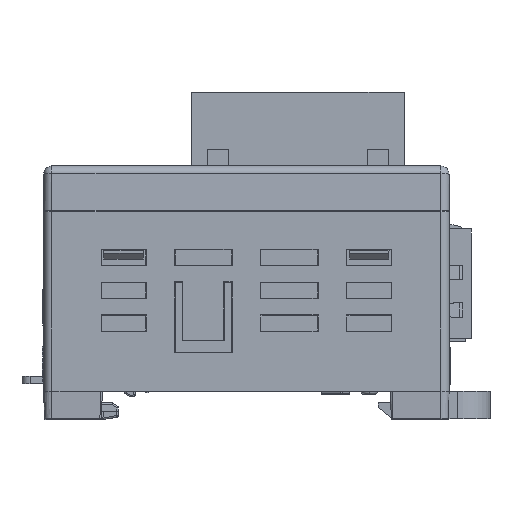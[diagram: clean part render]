
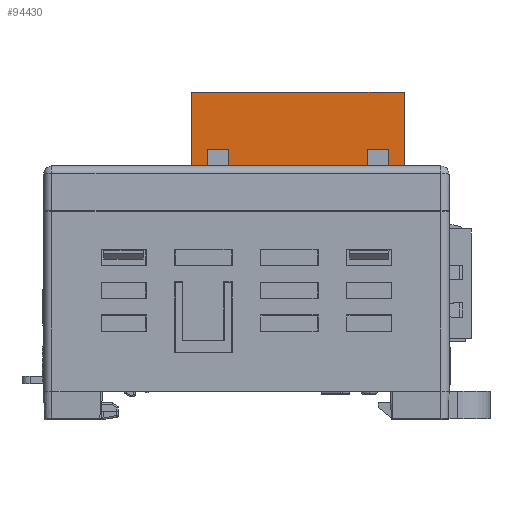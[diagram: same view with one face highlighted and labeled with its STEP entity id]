
A CAD part, left-side view. The second image highlights one B-rep face of the part: STEP entity #94430.
In plain terms, the highlighted planar face has unit normal (-1, 0, 0).
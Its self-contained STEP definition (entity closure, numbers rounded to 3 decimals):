
#1068=DIRECTION('',(0.,1.,0.));
#1069=VECTOR('',#1068,1.);
#1070=CARTESIAN_POINT('',(-13.22,-19.25,27.5));
#1071=LINE('',#1070,#1069);
#1084=DIRECTION('',(0.,1.,0.));
#1085=VECTOR('',#1084,1.);
#1086=CARTESIAN_POINT('',(-13.22,-13.3,27.5));
#1087=LINE('',#1086,#1085);
#1100=DIRECTION('',(0.,1.,0.));
#1101=VECTOR('',#1100,1.);
#1102=CARTESIAN_POINT('',(-13.22,-6.8,27.5));
#1103=LINE('',#1102,#1101);
#1116=DIRECTION('',(0.,1.,0.));
#1117=VECTOR('',#1116,1.);
#1118=CARTESIAN_POINT('',(-13.22,-0.3,27.5));
#1119=LINE('',#1118,#1117);
#1132=DIRECTION('',(0.,1.,0.));
#1133=VECTOR('',#1132,1.);
#1134=CARTESIAN_POINT('',(-13.22,5.65,27.5));
#1135=LINE('',#1134,#1133);
#8282=DIRECTION('',(0.,-1.,0.));
#8283=VECTOR('',#8282,0.9);
#8284=CARTESIAN_POINT('',(-13.22,-17.35,28.));
#8285=LINE('',#8284,#8283);
#8286=DIRECTION('',(0.,-1.,0.));
#8287=VECTOR('',#8286,2.6);
#8288=CARTESIAN_POINT('',(-13.22,-14.75,33.));
#8289=LINE('',#8288,#8287);
#8290=DIRECTION('',(0.,0.,1.));
#8291=VECTOR('',#8290,5.);
#8292=CARTESIAN_POINT('',(-13.22,-14.75,28.));
#8293=LINE('',#8292,#8291);
#8294=DIRECTION('',(0.,-1.,0.));
#8295=VECTOR('',#8294,1.45);
#8296=CARTESIAN_POINT('',(-13.22,-13.3,28.));
#8297=LINE('',#8296,#8295);
#8298=DIRECTION('',(0.,-1.,0.));
#8299=VECTOR('',#8298,5.5);
#8300=CARTESIAN_POINT('',(-13.22,-6.8,28.));
#8301=LINE('',#8300,#8299);
#8302=DIRECTION('',(0.,-1.,0.));
#8303=VECTOR('',#8302,5.5);
#8304=CARTESIAN_POINT('',(-13.22,-0.3,28.));
#8305=LINE('',#8304,#8303);
#8306=DIRECTION('',(0.,-1.,0.));
#8307=VECTOR('',#8306,1.45);
#8308=CARTESIAN_POINT('',(-13.22,2.15,28.));
#8309=LINE('',#8308,#8307);
#8310=DIRECTION('',(0.,-1.,0.));
#8311=VECTOR('',#8310,0.9);
#8312=CARTESIAN_POINT('',(-13.22,5.65,28.));
#8313=LINE('',#8312,#8311);
#8322=DIRECTION('',(0.,0.,1.));
#8323=VECTOR('',#8322,0.5);
#8324=CARTESIAN_POINT('',(-13.22,-18.25,27.5));
#8325=LINE('',#8324,#8323);
#8338=DIRECTION('',(0.,0.,-1.));
#8339=VECTOR('',#8338,12.5);
#8340=CARTESIAN_POINT('',(-13.22,-19.25,40.));
#8341=LINE('',#8340,#8339);
#8470=DIRECTION('',(0.,0.,1.));
#8471=VECTOR('',#8470,12.5);
#8472=CARTESIAN_POINT('',(-13.22,6.65,27.5));
#8473=LINE('',#8472,#8471);
#10220=DIRECTION('',(0.,0.,-1.));
#10221=VECTOR('',#10220,0.5);
#10222=CARTESIAN_POINT('',(-13.22,5.65,28.));
#10223=LINE('',#10222,#10221);
#10488=DIRECTION('',(0.,0.,-1.));
#10489=VECTOR('',#10488,5.);
#10490=CARTESIAN_POINT('',(-13.22,-17.35,33.));
#10491=LINE('',#10490,#10489);
#10824=DIRECTION('',(0.,0.,1.));
#10825=VECTOR('',#10824,5.);
#10826=CARTESIAN_POINT('',(-13.22,4.75,28.));
#10827=LINE('',#10826,#10825);
#10844=DIRECTION('',(0.,-1.,0.));
#10845=VECTOR('',#10844,2.6);
#10846=CARTESIAN_POINT('',(-13.22,4.75,33.));
#10847=LINE('',#10846,#10845);
#10852=DIRECTION('',(0.,0.,-1.));
#10853=VECTOR('',#10852,5.);
#10854=CARTESIAN_POINT('',(-13.22,2.15,33.));
#10855=LINE('',#10854,#10853);
#13808=DIRECTION('',(0.,-1.,0.));
#13809=VECTOR('',#13808,25.9);
#13810=CARTESIAN_POINT('',(-13.22,6.65,40.));
#13811=LINE('',#13810,#13809);
#14068=DIRECTION('',(0.,0.,-1.));
#14069=VECTOR('',#14068,0.5);
#14070=CARTESIAN_POINT('',(-13.22,-13.3,28.));
#14071=LINE('',#14070,#14069);
#14092=DIRECTION('',(0.,0.,1.));
#14093=VECTOR('',#14092,0.5);
#14094=CARTESIAN_POINT('',(-13.22,-12.3,27.5));
#14095=LINE('',#14094,#14093);
#14096=DIRECTION('',(0.,0.,-1.));
#14097=VECTOR('',#14096,0.5);
#14098=CARTESIAN_POINT('',(-13.22,-6.8,28.));
#14099=LINE('',#14098,#14097);
#14120=DIRECTION('',(0.,0.,1.));
#14121=VECTOR('',#14120,0.5);
#14122=CARTESIAN_POINT('',(-13.22,-5.8,27.5));
#14123=LINE('',#14122,#14121);
#14124=DIRECTION('',(0.,0.,-1.));
#14125=VECTOR('',#14124,0.5);
#14126=CARTESIAN_POINT('',(-13.22,-0.3,28.));
#14127=LINE('',#14126,#14125);
#14148=DIRECTION('',(0.,0.,1.));
#14149=VECTOR('',#14148,0.5);
#14150=CARTESIAN_POINT('',(-13.22,0.7,27.5));
#14151=LINE('',#14150,#14149);
#67272=CARTESIAN_POINT('',(-13.22,-14.75,28.));
#67274=VERTEX_POINT('',#67272);
#67277=CARTESIAN_POINT('',(-13.22,-17.35,28.));
#67278=VERTEX_POINT('',#67277);
#67279=CARTESIAN_POINT('',(-13.22,-18.25,28.));
#67280=VERTEX_POINT('',#67279);
#67357=CARTESIAN_POINT('',(-13.22,5.65,28.));
#67358=VERTEX_POINT('',#67357);
#67359=CARTESIAN_POINT('',(-13.22,4.75,28.));
#67360=VERTEX_POINT('',#67359);
#67365=CARTESIAN_POINT('',(-13.22,2.15,28.));
#67366=VERTEX_POINT('',#67365);
#67367=CARTESIAN_POINT('',(-13.22,0.7,28.));
#67368=VERTEX_POINT('',#67367);
#67373=CARTESIAN_POINT('',(-13.22,-0.3,28.));
#67374=VERTEX_POINT('',#67373);
#67375=CARTESIAN_POINT('',(-13.22,-5.8,28.));
#67376=VERTEX_POINT('',#67375);
#67381=CARTESIAN_POINT('',(-13.22,-6.8,28.));
#67382=VERTEX_POINT('',#67381);
#67383=CARTESIAN_POINT('',(-13.22,-12.3,28.));
#67384=VERTEX_POINT('',#67383);
#67389=CARTESIAN_POINT('',(-13.22,-13.3,28.));
#67390=VERTEX_POINT('',#67389);
#68393=CARTESIAN_POINT('',(-13.22,-17.35,33.));
#68394=VERTEX_POINT('',#68393);
#68395=CARTESIAN_POINT('',(-13.22,-14.75,33.));
#68396=VERTEX_POINT('',#68395);
#68397=CARTESIAN_POINT('',(-13.22,2.15,33.));
#68398=VERTEX_POINT('',#68397);
#68399=CARTESIAN_POINT('',(-13.22,4.75,33.));
#68400=VERTEX_POINT('',#68399);
#68401=CARTESIAN_POINT('',(-13.22,6.65,40.));
#68402=CARTESIAN_POINT('',(-13.22,-19.25,40.));
#68403=VERTEX_POINT('',#68401);
#68404=VERTEX_POINT('',#68402);
#78682=CARTESIAN_POINT('',(-13.22,-19.25,27.5));
#78683=CARTESIAN_POINT('',(-13.22,-18.25,27.5));
#78684=VERTEX_POINT('',#78682);
#78685=VERTEX_POINT('',#78683);
#78686=CARTESIAN_POINT('',(-13.22,-13.3,27.5));
#78687=CARTESIAN_POINT('',(-13.22,-12.3,27.5));
#78688=VERTEX_POINT('',#78686);
#78689=VERTEX_POINT('',#78687);
#78690=CARTESIAN_POINT('',(-13.22,-6.8,27.5));
#78691=CARTESIAN_POINT('',(-13.22,-5.8,27.5));
#78692=VERTEX_POINT('',#78690);
#78693=VERTEX_POINT('',#78691);
#78694=CARTESIAN_POINT('',(-13.22,-0.3,27.5));
#78695=CARTESIAN_POINT('',(-13.22,0.7,27.5));
#78696=VERTEX_POINT('',#78694);
#78697=VERTEX_POINT('',#78695);
#78698=CARTESIAN_POINT('',(-13.22,5.65,27.5));
#78699=CARTESIAN_POINT('',(-13.22,6.65,27.5));
#78700=VERTEX_POINT('',#78698);
#78701=VERTEX_POINT('',#78699);
#94379=CARTESIAN_POINT('',(-13.22,-6.3,33.5));
#94380=DIRECTION('',(1.,0.,0.));
#94381=DIRECTION('',(0.,0.,-1.));
#94382=AXIS2_PLACEMENT_3D('',#94379,#94380,#94381);
#94383=PLANE('',#94382);
#94384=ORIENTED_EDGE('',*,*,#80434,.T.);
#94386=ORIENTED_EDGE('',*,*,#94385,.T.);
#94387=ORIENTED_EDGE('',*,*,#93711,.F.);
#94389=ORIENTED_EDGE('',*,*,#94388,.F.);
#94391=ORIENTED_EDGE('',*,*,#94390,.F.);
#94392=ORIENTED_EDGE('',*,*,#94361,.F.);
#94393=ORIENTED_EDGE('',*,*,#93823,.F.);
#94395=ORIENTED_EDGE('',*,*,#94394,.T.);
#94396=ORIENTED_EDGE('',*,*,#80444,.T.);
#94398=ORIENTED_EDGE('',*,*,#94397,.T.);
#94399=ORIENTED_EDGE('',*,*,#93815,.F.);
#94401=ORIENTED_EDGE('',*,*,#94400,.T.);
#94402=ORIENTED_EDGE('',*,*,#80454,.T.);
#94404=ORIENTED_EDGE('',*,*,#94403,.T.);
#94405=ORIENTED_EDGE('',*,*,#93807,.F.);
#94407=ORIENTED_EDGE('',*,*,#94406,.T.);
#94408=ORIENTED_EDGE('',*,*,#80464,.T.);
#94410=ORIENTED_EDGE('',*,*,#94409,.T.);
#94411=ORIENTED_EDGE('',*,*,#93799,.F.);
#94413=ORIENTED_EDGE('',*,*,#94412,.F.);
#94415=ORIENTED_EDGE('',*,*,#94414,.F.);
#94417=ORIENTED_EDGE('',*,*,#94416,.F.);
#94418=ORIENTED_EDGE('',*,*,#93791,.F.);
#94420=ORIENTED_EDGE('',*,*,#94419,.T.);
#94421=ORIENTED_EDGE('',*,*,#80474,.T.);
#94423=ORIENTED_EDGE('',*,*,#94422,.T.);
#94425=ORIENTED_EDGE('',*,*,#94424,.T.);
#94427=ORIENTED_EDGE('',*,*,#94426,.T.);
#94428=EDGE_LOOP('',(#94384,#94386,#94387,#94389,#94391,#94392,#94393,#94395,
#94396,#94398,#94399,#94401,#94402,#94404,#94405,#94407,#94408,#94410,#94411,
#94413,#94415,#94417,#94418,#94420,#94421,#94423,#94425,#94427));
#94429=FACE_OUTER_BOUND('',#94428,.F.);
#94430=ADVANCED_FACE('',(#94429),#94383,.F.);
#80434=EDGE_CURVE('',#78684,#78685,#1071,.T.);
#80444=EDGE_CURVE('',#78688,#78689,#1087,.T.);
#80454=EDGE_CURVE('',#78692,#78693,#1103,.T.);
#80464=EDGE_CURVE('',#78696,#78697,#1119,.T.);
#80474=EDGE_CURVE('',#78700,#78701,#1135,.T.);
#93711=EDGE_CURVE('',#67278,#67280,#8285,.T.);
#93791=EDGE_CURVE('',#67358,#67360,#8313,.T.);
#93799=EDGE_CURVE('',#67366,#67368,#8309,.T.);
#93807=EDGE_CURVE('',#67374,#67376,#8305,.T.);
#93815=EDGE_CURVE('',#67382,#67384,#8301,.T.);
#93823=EDGE_CURVE('',#67390,#67274,#8297,.T.);
#94361=EDGE_CURVE('',#67274,#68396,#8293,.T.);
#94385=EDGE_CURVE('',#78685,#67280,#8325,.T.);
#94388=EDGE_CURVE('',#68394,#67278,#10491,.T.);
#94390=EDGE_CURVE('',#68396,#68394,#8289,.T.);
#94394=EDGE_CURVE('',#67390,#78688,#14071,.T.);
#94397=EDGE_CURVE('',#78689,#67384,#14095,.T.);
#94400=EDGE_CURVE('',#67382,#78692,#14099,.T.);
#94403=EDGE_CURVE('',#78693,#67376,#14123,.T.);
#94406=EDGE_CURVE('',#67374,#78696,#14127,.T.);
#94409=EDGE_CURVE('',#78697,#67368,#14151,.T.);
#94412=EDGE_CURVE('',#68398,#67366,#10855,.T.);
#94414=EDGE_CURVE('',#68400,#68398,#10847,.T.);
#94416=EDGE_CURVE('',#67360,#68400,#10827,.T.);
#94419=EDGE_CURVE('',#67358,#78700,#10223,.T.);
#94422=EDGE_CURVE('',#78701,#68403,#8473,.T.);
#94424=EDGE_CURVE('',#68403,#68404,#13811,.T.);
#94426=EDGE_CURVE('',#68404,#78684,#8341,.T.);
